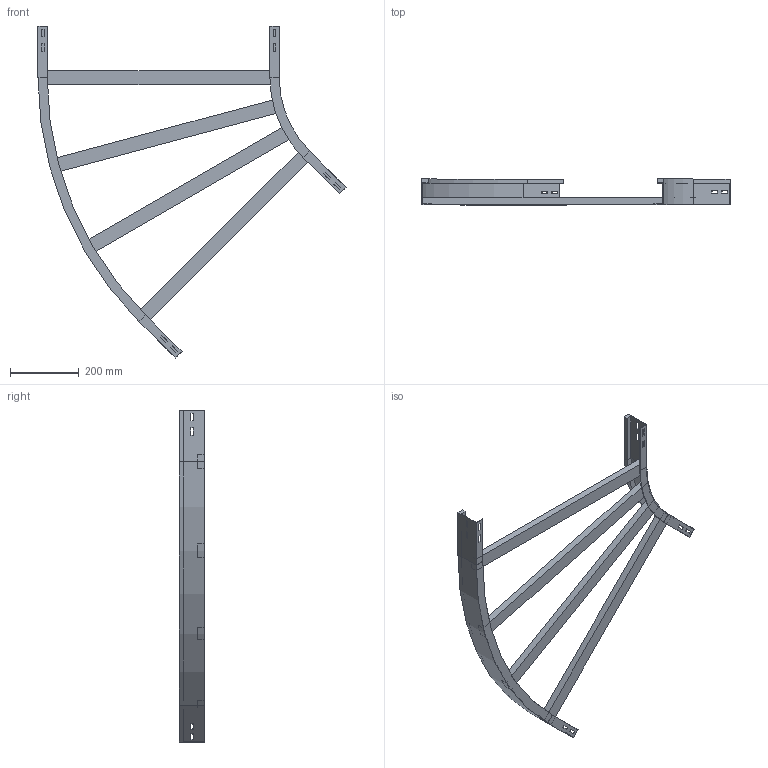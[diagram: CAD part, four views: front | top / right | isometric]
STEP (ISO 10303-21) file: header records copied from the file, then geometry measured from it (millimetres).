
FILE_DESCRIPTION (( 'STEP AP214' ), '1' );
FILE_NAME ('A2_11B3C700.step', '2025-02-21T15:16:13', ( '' ), ( '' ), 'SwSTEP 2.0', 'SolidWorks 2023', '' );
FILE_SCHEMA (( 'AUTOMOTIVE_DESIGN' ));
Length unit declared in the file: millimetre
Products named in the file (4): A2_LONGH.INTERNO 45°_H75_R300; TRAVERSINO_700; A2_11B3C700; A2_LONGH.ESTERNO 45°_H75_R300+700
Assembly tree (6 placements, depth 2):
  A2_11B3C700
    A2_LONGH.INTERNO 45°_H75_R300
    A2_LONGH.ESTERNO 45°_H75_R300+700
    TRAVERSINO_700  x4
Bounding box: 893.93 x 75 x 963.17 mm (x, y, z)
Volume: 2885550.9 mm3; surface area: 724400.2 mm2
Topology: 6 solids, 6 shells, 140 faces, 352 edges, 224 vertices
Faces by surface type: plane 132, cylinder 8
Entity records: 3829 total; most frequent: CARTESIAN_POINT 647, ORIENTED_EDGE 632, DIRECTION 594, EDGE_CURVE 316, VECTOR 300, LINE 300, VERTEX_POINT 200, EDGE_LOOP 154
